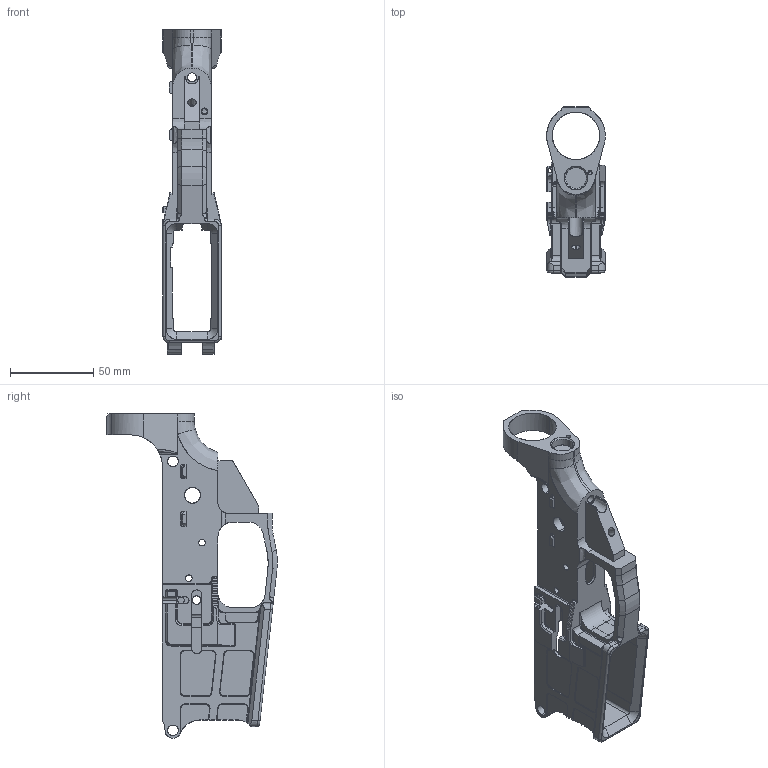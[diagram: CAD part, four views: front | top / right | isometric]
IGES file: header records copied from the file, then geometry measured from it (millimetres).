
Start section: SolidWorks IGES file using analytic representation for surfaces
Global section: file name: C:\Users\Chad\Desktop\Lower NO 2A Copy.IGS; native system: SolidWorks 2012; preprocessor: SolidWorks 2012; author: Chad; date: 140419.101412; units: inch
Bounding box: 35.43 x 102.72 x 195.35 mm (x, y, z)
Surface area: 55246.6 mm2 (no closed solid volume)
Topology: 0 solids, 0 shells, 714 faces, 7846 edges, 7838 vertices
Faces by surface type: bspline 397, revolution 317
